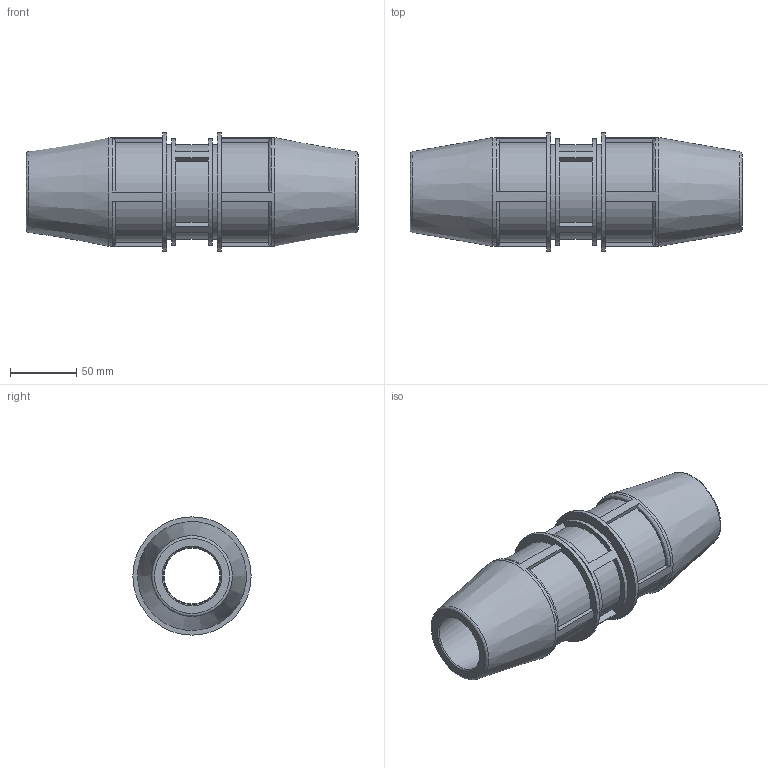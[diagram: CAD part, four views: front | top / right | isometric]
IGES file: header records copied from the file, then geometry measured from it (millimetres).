
Global section: file name: 176100040043_196100040043.ipt; native system: Autodesk Inventor 2015; preprocessor: unknown; author: KIM; date: 20180211.125800; units: millimetre
Bounding box: 250 x 89 x 89 mm (x, y, z)
Volume: 654710.5 mm3; surface area: 115186.1 mm2
Topology: 1 solids, 1 shells, 86 faces, 221 edges, 148 vertices
Faces by surface type: plane 50, cylinder 19, revolution 15, cone 2
Full cylindrical faces by diameter (mm): 71.2 x2, 80.1 x1, 81.88 x2, 89 x2
